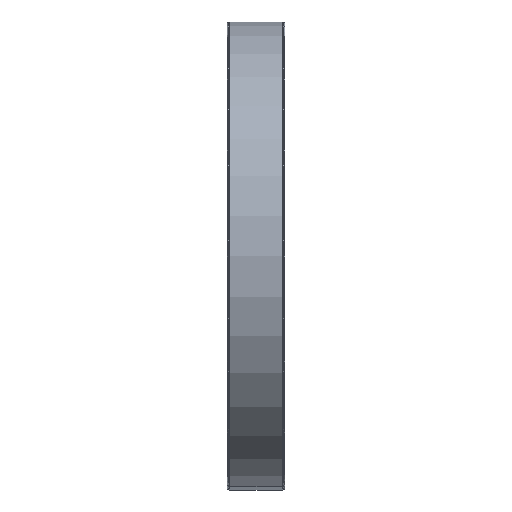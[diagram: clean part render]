
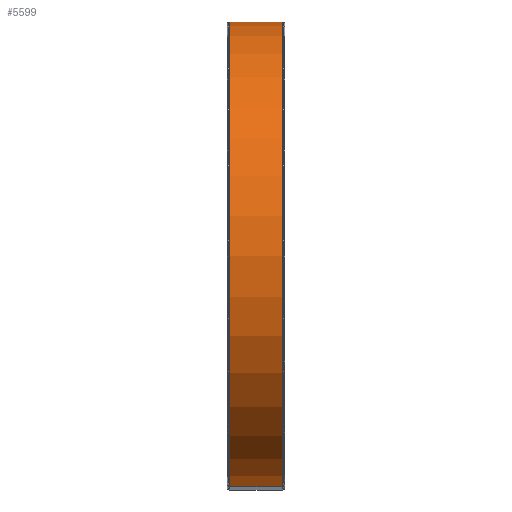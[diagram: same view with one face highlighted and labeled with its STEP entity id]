
A CAD part, front view. The second image highlights one B-rep face of the part: STEP entity #5599.
In plain terms, the highlighted cylindrical face has radius 40.425 mm (diameter 80.85 mm), a partial arc.
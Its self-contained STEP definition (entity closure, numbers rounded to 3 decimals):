
#651 = ORIENTED_EDGE ( 'NONE', *, *, #10926, .T. ) ;
#1864 = AXIS2_PLACEMENT_3D ( 'NONE', #22714, #27099, #3468 ) ;
#3468 = DIRECTION ( 'NONE',  ( 0., 0.172, 0.985 ) ) ;
#3500 = EDGE_CURVE ( 'NONE', #19194, #7907, #26707, .T. ) ;
#3529 = EDGE_LOOP ( 'NONE', ( #8989, #25662, #651, #10077 ) ) ;
#4057 = DIRECTION ( 'NONE',  ( -1., 0., 0. ) ) ;
#5599 = ADVANCED_FACE ( 'NONE', ( #19404 ), #27736, .T. ) ;
#7191 = AXIS2_PLACEMENT_3D ( 'NONE', #7725, #14077, #25035 ) ;
#7299 = DIRECTION ( 'NONE',  ( -1., 0., 0. ) ) ;
#7584 = CARTESIAN_POINT ( 'NONE',  ( 2.794, 1.473, -3.337 ) ) ;
#7725 = CARTESIAN_POINT ( 'NONE',  ( -6.206, 1.473, -3.337 ) ) ;
#7891 = EDGE_CURVE ( 'NONE', #15606, #23626, #8141, .T. ) ;
#7904 = CARTESIAN_POINT ( 'NONE',  ( 2.794, 8.419, 36.487 ) ) ;
#7907 = VERTEX_POINT ( 'NONE', #10398 ) ;
#8141 = LINE ( 'NONE', #19088, #22237 ) ;
#8989 = ORIENTED_EDGE ( 'NONE', *, *, #23568, .F. ) ;
#9112 = VECTOR ( 'NONE', #7299, 1000. ) ;
#9136 = CARTESIAN_POINT ( 'NONE',  ( -6.206, -5.472, -43.161 ) ) ;
#10077 = ORIENTED_EDGE ( 'NONE', *, *, #7891, .F. ) ;
#10398 = CARTESIAN_POINT ( 'NONE',  ( -6.206, 8.419, 36.487 ) ) ;
#10926 = EDGE_CURVE ( 'NONE', #7907, #23626, #19310, .T. ) ;
#13775 = DIRECTION ( 'NONE',  ( -1., 0., 0. ) ) ;
#14077 = DIRECTION ( 'NONE',  ( 1., 0., 0. ) ) ;
#15606 = VERTEX_POINT ( 'NONE', #22118 ) ;
#19088 = CARTESIAN_POINT ( 'NONE',  ( 2.794, -5.472, -43.161 ) ) ;
#19194 = VERTEX_POINT ( 'NONE', #7904 ) ;
#19310 = CIRCLE ( 'NONE', #7191, 40.425 ) ;
#19404 = FACE_OUTER_BOUND ( 'NONE', #3529, .T. ) ;
#20495 = CARTESIAN_POINT ( 'NONE',  ( 2.794, 8.419, 36.487 ) ) ;
#21123 = AXIS2_PLACEMENT_3D ( 'NONE', #7584, #13775, #24306 ) ;
#22118 = CARTESIAN_POINT ( 'NONE',  ( 2.794, -5.472, -43.161 ) ) ;
#22237 = VECTOR ( 'NONE', #4057, 1000. ) ;
#22714 = CARTESIAN_POINT ( 'NONE',  ( 2.794, 1.473, -3.337 ) ) ;
#23432 = CIRCLE ( 'NONE', #1864, 40.425 ) ;
#23568 = EDGE_CURVE ( 'NONE', #19194, #15606, #23432, .T. ) ;
#23626 = VERTEX_POINT ( 'NONE', #9136 ) ;
#24306 = DIRECTION ( 'NONE',  ( 0., -0.172, -0.985 ) ) ;
#25035 = DIRECTION ( 'NONE',  ( 0., 0.172, 0.985 ) ) ;
#25662 = ORIENTED_EDGE ( 'NONE', *, *, #3500, .T. ) ;
#26707 = LINE ( 'NONE', #20495, #9112 ) ;
#27099 = DIRECTION ( 'NONE',  ( 1., 0., 0. ) ) ;
#27736 = CYLINDRICAL_SURFACE ( 'NONE', #21123, 40.425 ) ;
